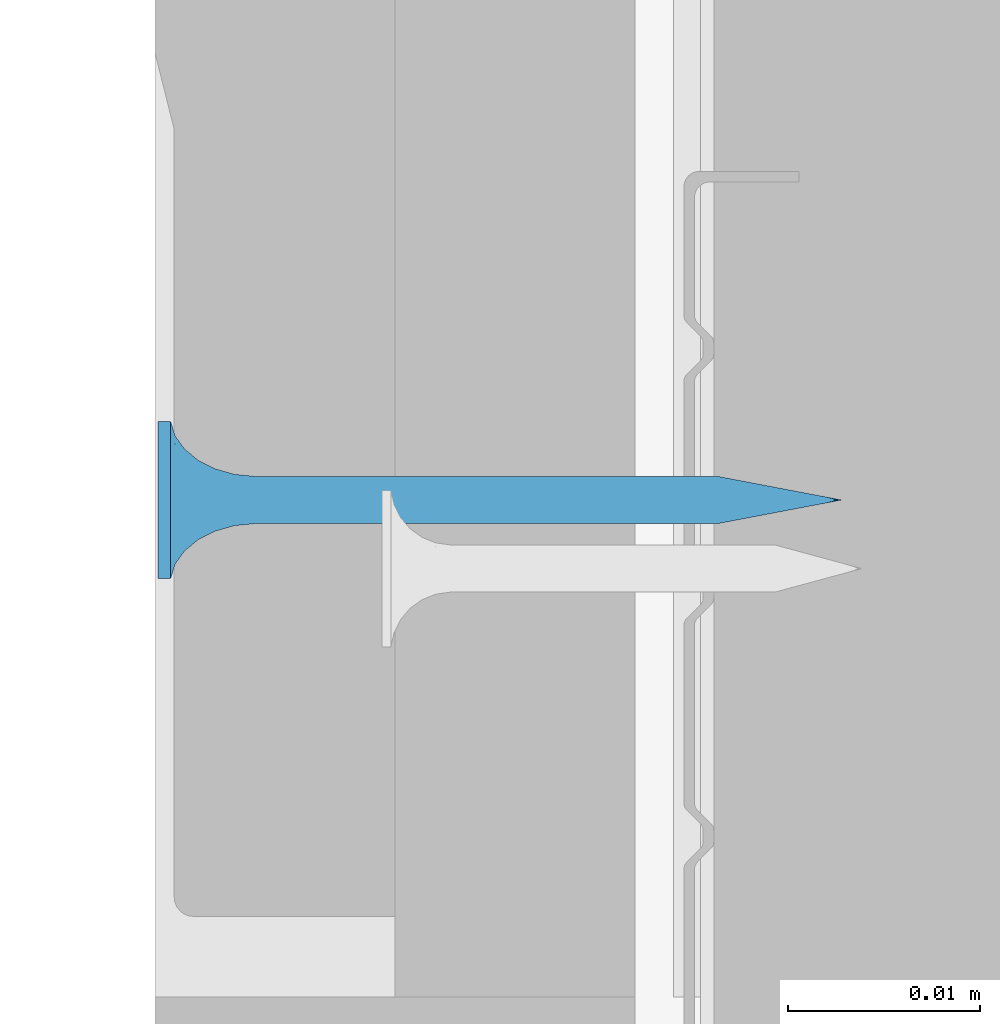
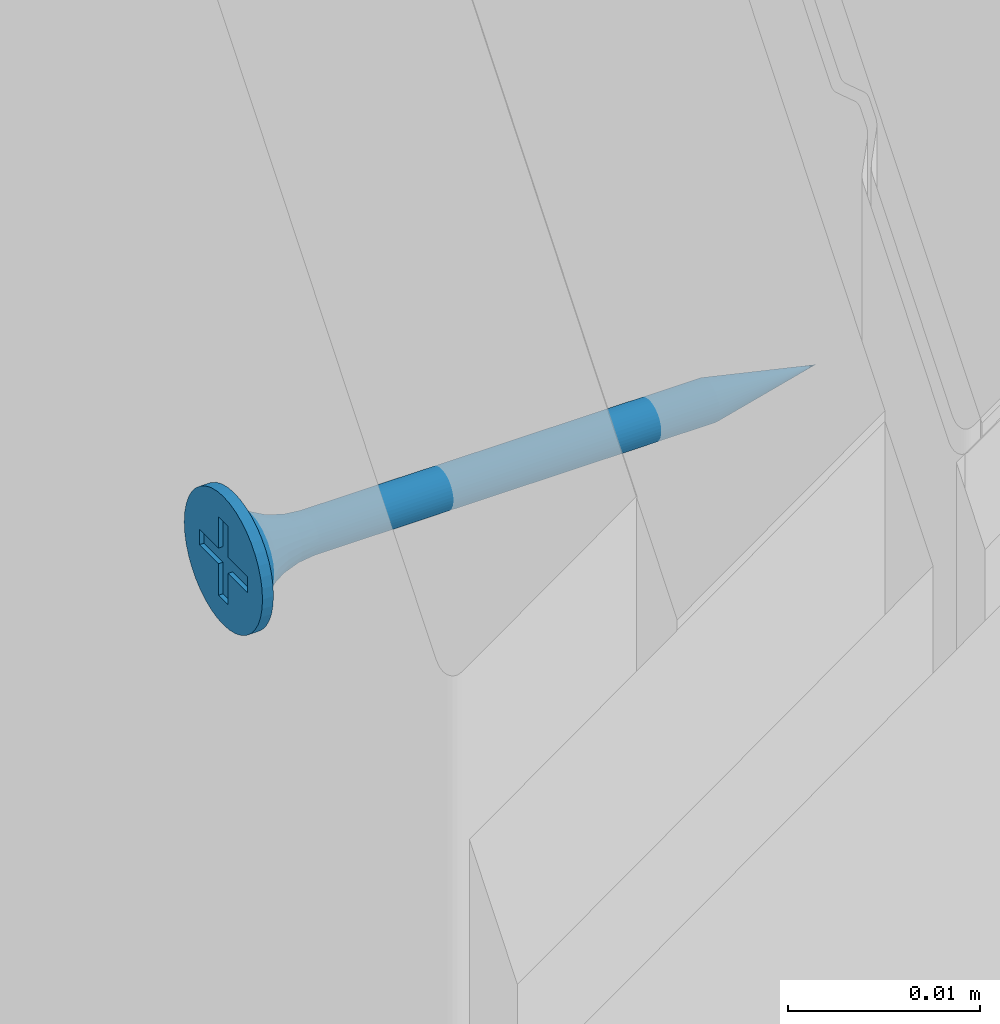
# One storey, part 47 of 92: 1 wall.
"""IFC2X3 building model written with IfcOpenShell, lengths in millimetres."""

from ifc_helpers import new_model, si_unit, frame, origin_with_axes, place, context, subcontext, project, spatial, faceted_brep, material, type_object, element, save


model = new_model("IFC2X3")

# Units and contexts
model_context = context("Model", 3, world=origin_with_axes())
body_context = subcontext(model_context, "Body", "Model", "MODEL_VIEW")
ifc_project = project(units=[si_unit("LENGTHUNIT", "METRE", prefix="MILLI"), si_unit("AREAUNIT", "SQUARE_METRE"), si_unit("VOLUMEUNIT", "CUBIC_METRE")], contexts=[model_context])

# Site, building, storey
site_placement = place(None, origin_with_axes())
site = spatial("IfcSite", under=ifc_project, at=site_placement, Name="Default Site", CompositionType="ELEMENT")
building_placement = place(site_placement, origin_with_axes())
building = spatial("IfcBuilding", under=site, at=building_placement, Name="Default Building", CompositionType="ELEMENT")
storey_placement = place(building_placement, origin_with_axes())
storey = spatial("IfcBuildingStorey", under=building, at=storey_placement, Name="Default Building Storey", CompositionType="ELEMENT", Elevation=0.0)

# Wall
ifc_material = material(Name="Undefined2")
wall_type = type_object("IfcWallType", Name="Wkręt RIGIPS TN 35#37", PredefinedType="NOTDEFINED")
wall_placement = place(storey_placement, frame((4833.413128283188, 6.443031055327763, 136.19379806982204), z_axis=(0.0, 0.0, 1.0), x_axis=(6.938893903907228e-17, -1.0, 0.0)))
element("IfcWall", 1, at=wall_placement, inside=storey, type_object=wall_type, material=ifc_material, Name="Wkręt RIGIPS TN 35", context=body_context, shape_type="Brep", body=[
    faceted_brep([(-141.48753293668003, -4832.598052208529, 555.1619773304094), (-141.48753293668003, -4833.259714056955, 555.1619773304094), (-141.5377465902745, -4833.259714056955, 555.8000000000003), (-141.5377465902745, -4832.598052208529, 555.8000000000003), (-141.33812900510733, -4832.598052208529, 554.539664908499), (-141.33812900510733, -4833.259714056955, 554.539664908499), (-141.09321328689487, -4832.598052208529, 553.948386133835), (-141.09321328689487, -4833.259714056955, 553.948386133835), (-140.75881656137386, -4832.598052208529, 553.4027002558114), (-140.75881656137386, -4833.259714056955, 553.4027002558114), (-140.34317265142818, -4833.259714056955, 552.9160436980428), (-140.45417279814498, -4832.598052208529, 553.031490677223), (-139.8565160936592, -4833.259714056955, 552.5003997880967), (-140.1080097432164, -4832.598052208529, 552.6986613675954), (-139.72512626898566, -4832.598052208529, 552.4088260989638), (-139.31083021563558, -4833.259714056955, 552.1660030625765), (-139.31083021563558, -4832.598052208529, 552.1660030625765), (-138.71955144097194, -4833.259714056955, 551.9210873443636), (-138.87086516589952, -4832.598052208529, 551.9735585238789), (-138.41133029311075, -4832.598052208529, 551.8341602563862), (-138.0972390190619, -4833.259714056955, 551.7716834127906), (-137.9385961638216, -4832.598052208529, 551.74974052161), (-137.45921634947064, -4833.259714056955, 551.7214697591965), (-137.45921634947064, -4832.598052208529, 551.7214697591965), (-136.82119367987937, -4832.598052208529, 551.7716834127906), (-136.82119367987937, -4833.259714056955, 551.7716834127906), (-136.19888125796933, -4832.598052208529, 551.9210873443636), (-136.19888125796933, -4833.259714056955, 551.9210873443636), (-135.6076024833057, -4832.598052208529, 552.1660030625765), (-135.6076024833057, -4833.259714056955, 552.1660030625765), (-135.06191660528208, -4832.598052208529, 552.5003997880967), (-135.06191660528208, -4833.259714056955, 552.5003997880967), (-134.57526004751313, -4832.598052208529, 552.9160436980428), (-134.57526004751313, -4833.259714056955, 552.9160436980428), (-134.1596161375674, -4832.598052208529, 553.4027002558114), (-134.1596161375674, -4833.259714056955, 553.4027002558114), (-133.8252194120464, -4832.598052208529, 553.948386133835), (-133.8252194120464, -4833.259714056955, 553.948386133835), (-133.58030369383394, -4832.598052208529, 554.539664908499), (-133.58030369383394, -4833.259714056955, 554.539664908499), (-133.3806861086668, -4833.259714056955, 555.8000000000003), (-133.3806861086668, -4832.598052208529, 555.8000000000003), (-133.43089976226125, -4832.598052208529, 556.4380226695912), (-133.43089976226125, -4833.259714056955, 556.4380226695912), (-133.43089976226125, -4833.259714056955, 555.1619773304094), (-133.43089976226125, -4832.598052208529, 555.1619773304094), (-133.58030369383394, -4832.598052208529, 557.0603350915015), (-133.58030369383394, -4833.259714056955, 557.0603350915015), (-133.8252194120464, -4832.598052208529, 557.6516138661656), (-133.8252194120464, -4833.259714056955, 557.6516138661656), (-134.1596161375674, -4832.598052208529, 558.1972997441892), (-134.1596161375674, -4833.259714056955, 558.1972997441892), (-134.57526004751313, -4832.598052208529, 558.6839563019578), (-134.57526004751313, -4833.259714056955, 558.6839563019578), (-135.06191660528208, -4832.598052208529, 559.0996002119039), (-135.06191660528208, -4833.259714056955, 559.0996002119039), (-135.6076024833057, -4832.598052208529, 559.4339969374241), (-135.6076024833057, -4833.259714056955, 559.4339969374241), (-136.19888125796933, -4832.598052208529, 559.678912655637), (-136.19888125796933, -4833.259714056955, 559.678912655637), (-136.82119367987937, -4832.598052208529, 559.82831658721), (-136.82119367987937, -4833.259714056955, 559.82831658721), (-137.45921634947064, -4832.598052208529, 559.8785302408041), (-137.45921634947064, -4833.259714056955, 559.8785302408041), (-138.0972390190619, -4832.598052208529, 559.82831658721), (-138.0972390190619, -4833.259714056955, 559.82831658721), (-138.71955144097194, -4832.598052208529, 559.678912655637), (-138.71955144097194, -4833.259714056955, 559.678912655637), (-139.31083021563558, -4832.598052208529, 559.4339969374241), (-139.31083021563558, -4833.259714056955, 559.4339969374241), (-139.8565160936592, -4832.598052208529, 559.0996002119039), (-139.8565160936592, -4833.259714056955, 559.0996002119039), (-140.34317265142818, -4832.598052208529, 558.6839563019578), (-140.34317265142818, -4833.259714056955, 558.6839563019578), (-140.75881656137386, -4832.598052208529, 558.1972997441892), (-140.75881656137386, -4833.259714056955, 558.1972997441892), (-141.09321328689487, -4832.598052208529, 557.6516138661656), (-141.09321328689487, -4833.259714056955, 557.6516138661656), (-141.33812900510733, -4832.598052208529, 557.0603350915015), (-141.33812900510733, -4833.259714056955, 557.0603350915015), (-141.48753293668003, -4832.598052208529, 556.4380226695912), (-141.48753293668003, -4833.259714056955, 556.4380226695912), (-137.65172779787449, -4828.206294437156, 554.5845305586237), (-137.45921634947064, -4828.206294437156, 554.5693795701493), (-137.8060615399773, -4829.281368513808, 554.505556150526), (-137.45921634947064, -4829.281368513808, 554.4598930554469), (-137.83949898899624, -4828.206294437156, 554.6296104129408), (-138.12926982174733, -4829.281368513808, 554.6394333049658), (-138.01790634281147, -4828.206294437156, 554.7035091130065), (-138.1825568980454, -4828.206294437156, 554.8044072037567), (-138.40681506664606, -4829.281368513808, 554.8524012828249), (-138.3293964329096, -4828.206294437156, 554.9298199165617), (-138.45480914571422, -4828.206294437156, 555.0766594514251), (-138.6197830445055, -4829.281368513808, 555.1299465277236), (-138.5557072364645, -4828.206294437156, 555.2413100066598), (-138.753660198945, -4829.281368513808, 555.453154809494), (-138.62960593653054, -4828.206294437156, 555.4197173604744), (-138.67468579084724, -4828.206294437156, 555.6074885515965), (-138.79932329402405, -4829.281368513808, 555.7999999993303), (-138.68983677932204, -4828.206294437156, 555.8000000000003), (-138.67468579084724, -4828.206294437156, 555.9925114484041), (-138.753660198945, -4829.281368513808, 556.1468451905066), (-138.62960593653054, -4828.206294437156, 556.1802826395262), (-138.6197830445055, -4829.281368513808, 556.470053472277), (-138.5557072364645, -4828.206294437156, 556.3586899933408), (-138.45480914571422, -4828.206294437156, 556.5233405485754), (-138.40681506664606, -4829.281368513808, 556.7475987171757), (-138.3293964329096, -4828.206294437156, 556.6701800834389), (-138.1825568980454, -4828.206294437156, 556.7955927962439), (-138.12926982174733, -4829.281368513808, 556.9605666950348), (-138.01790634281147, -4828.206294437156, 556.8964908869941), (-137.8060615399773, -4829.281368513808, 557.0944438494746), (-137.83949898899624, -4828.206294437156, 556.9703895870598), (-137.65172779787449, -4828.206294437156, 557.0154694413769), (-137.45921634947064, -4829.281368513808, 557.1401069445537), (-137.45921634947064, -4828.206294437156, 557.0306204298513), (-137.26670490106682, -4828.206294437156, 557.0154694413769), (-137.11237115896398, -4829.281368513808, 557.0944438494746), (-137.07893370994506, -4828.206294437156, 556.9703895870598), (-136.78916287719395, -4829.281368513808, 556.9605666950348), (-136.9005263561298, -4828.206294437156, 556.8964908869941), (-136.7358758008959, -4828.206294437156, 556.7955927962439), (-136.5116176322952, -4829.281368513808, 556.7475987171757), (-136.58903626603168, -4828.206294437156, 556.6701800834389), (-136.46362355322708, -4828.206294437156, 556.5233405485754), (-136.2986496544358, -4829.281368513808, 556.470053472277), (-136.36272546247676, -4828.206294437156, 556.3586899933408), (-136.16477249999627, -4829.281368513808, 556.1468451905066), (-136.28882676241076, -4828.206294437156, 556.1802826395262), (-136.24374690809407, -4828.206294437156, 555.9925114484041), (-136.11910940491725, -4829.281368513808, 555.7999999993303), (-136.22859591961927, -4828.206294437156, 555.8000000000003), (-136.24374690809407, -4828.206294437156, 555.6074885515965), (-136.16477249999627, -4829.281368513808, 555.453154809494), (-136.28882676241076, -4828.206294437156, 555.4197173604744), (-136.2986496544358, -4829.281368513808, 555.1299465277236), (-136.36272546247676, -4828.206294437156, 555.2413100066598), (-136.46362355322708, -4828.206294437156, 555.0766594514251), (-136.5116176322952, -4829.281368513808, 554.8524012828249), (-136.58903626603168, -4828.206294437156, 554.9298199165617), (-136.7358758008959, -4828.206294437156, 554.8044072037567), (-136.78916287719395, -4829.281368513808, 554.6394333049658), (-136.9005263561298, -4828.206294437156, 554.7035091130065), (-137.11237115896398, -4829.281368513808, 554.505556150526), (-137.07893370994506, -4828.206294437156, 554.6296104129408), (-137.26670490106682, -4828.206294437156, 554.5845305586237), (-137.45921634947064, -4830.288222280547, 554.1737111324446), (-137.88013087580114, -4830.288222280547, 554.2291255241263), (-138.2723607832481, -4830.288222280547, 554.3915925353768), (-138.60917621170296, -4830.288222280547, 554.650040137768), (-138.8676238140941, -4830.288222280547, 554.9868555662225), (-139.03009082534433, -4830.288222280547, 555.3790854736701), (-139.08550521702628, -4830.288222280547, 555.7999999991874), (-139.03009082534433, -4830.288222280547, 556.2209145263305), (-138.8676238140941, -4830.288222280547, 556.6131444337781), (-138.60917621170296, -4830.288222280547, 556.9499598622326), (-138.2723607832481, -4830.288222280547, 557.2084074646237), (-137.88013087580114, -4830.288222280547, 557.3708744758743), (-137.45921634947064, -4830.288222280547, 557.426288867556), (-137.03830182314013, -4830.288222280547, 557.3708744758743), (-136.64607191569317, -4830.288222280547, 557.2084074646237), (-136.30925648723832, -4830.288222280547, 556.9499598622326), (-136.05080888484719, -4830.288222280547, 556.6131444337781), (-135.88834187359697, -4830.288222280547, 556.2209145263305), (-135.832927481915, -4830.288222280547, 555.7999999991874), (-135.88834187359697, -4830.288222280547, 555.3790854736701), (-136.05080888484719, -4830.288222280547, 554.9868555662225), (-136.30925648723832, -4830.288222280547, 554.650040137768), (-136.64607191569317, -4830.288222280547, 554.3915925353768), (-137.03830182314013, -4830.288222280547, 554.2291255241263), (-137.45921634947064, -4831.168773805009, 553.7273430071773), (-137.99565943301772, -4831.168773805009, 553.7979670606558), (-138.49554484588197, -4831.168773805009, 554.0050264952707), (-138.92480608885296, -4831.168773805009, 554.3344102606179), (-139.25418985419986, -4831.168773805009, 554.763671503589), (-139.46124928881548, -4831.168773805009, 555.2635569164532), (-139.53187334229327, -4831.168773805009, 555.799999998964), (-139.46124928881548, -4831.168773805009, 556.3364430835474), (-139.25418985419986, -4831.168773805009, 556.8363284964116), (-138.92480608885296, -4831.168773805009, 557.2655897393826), (-138.49554484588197, -4831.168773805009, 557.5949735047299), (-137.99565943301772, -4831.168773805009, 557.8020329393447), (-137.45921634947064, -4831.168773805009, 557.8726569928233), (-136.92277326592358, -4831.168773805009, 557.8020329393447), (-136.42288785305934, -4831.168773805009, 557.5949735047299), (-135.9936266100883, -4831.168773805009, 557.2655897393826), (-135.6642428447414, -4831.168773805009, 556.8363284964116), (-135.45718341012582, -4831.168773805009, 556.3364430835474), (-135.386559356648, -4831.168773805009, 555.799999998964), (-135.45718341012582, -4831.168773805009, 555.2635569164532), (-135.6642428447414, -4831.168773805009, 554.763671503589), (-135.9936266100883, -4831.168773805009, 554.3344102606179), (-136.42288785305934, -4831.168773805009, 554.0050264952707), (-136.92277326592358, -4831.168773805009, 553.7979670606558), (-137.45921634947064, -4831.872222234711, 553.1465392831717), (-138.14598252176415, -4831.872222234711, 553.2369539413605), (-138.78594670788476, -4831.872222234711, 553.5020355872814), (-139.33549641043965, -4831.872222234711, 553.9237199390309), (-139.75718076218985, -4831.872222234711, 554.4732696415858), (-140.02226240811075, -4831.872222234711, 555.1132338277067), (-140.11267706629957, -4831.872222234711, 555.7999999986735), (-140.02226240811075, -4831.872222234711, 556.4867661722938), (-139.75718076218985, -4831.872222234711, 557.1267303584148), (-139.33549641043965, -4831.872222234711, 557.6762800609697), (-138.78594670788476, -4831.872222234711, 558.0979644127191), (-138.14598252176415, -4831.872222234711, 558.3630460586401), (-137.45921634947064, -4831.872222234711, 558.4534607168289), (-136.77245017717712, -4831.872222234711, 558.3630460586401), (-136.13248599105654, -4831.872222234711, 558.0979644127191), (-135.58293628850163, -4831.872222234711, 557.6762800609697), (-135.16125193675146, -4831.872222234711, 557.1267303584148), (-134.89617029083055, -4831.872222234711, 556.4867661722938), (-134.8057556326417, -4831.872222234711, 555.7999999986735), (-134.89617029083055, -4831.872222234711, 555.1132338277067), (-135.16125193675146, -4831.872222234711, 554.4732696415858), (-135.58293628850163, -4831.872222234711, 553.9237199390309), (-136.13248599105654, -4831.872222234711, 553.5020355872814), (-136.77245017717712, -4831.872222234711, 553.2369539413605), (-137.45921634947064, -4832.357990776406, 552.4648055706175), (-138.3224281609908, -4832.357990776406, 552.5784495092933), (-139.12681356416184, -4832.357990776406, 552.9116369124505), (-139.8175549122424, -4832.357990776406, 553.4416614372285), (-140.34757943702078, -4832.357990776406, 554.1324027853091), (-140.680766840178, -4832.357990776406, 554.9367881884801), (-140.79441077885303, -4832.357990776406, 555.7999999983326), (-140.680766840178, -4832.357990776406, 556.6632118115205), (-140.34757943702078, -4832.357990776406, 557.4675972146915), (-139.8175549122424, -4832.357990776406, 558.1583385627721), (-139.12681356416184, -4832.357990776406, 558.6883630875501), (-138.3224281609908, -4832.357990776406, 559.0215504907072), (-137.45921634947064, -4832.357990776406, 559.1351944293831), (-136.5960045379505, -4832.357990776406, 559.0215504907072), (-135.79161913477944, -4832.357990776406, 558.6883630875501), (-135.10087778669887, -4832.357990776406, 558.1583385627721), (-134.5708532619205, -4832.357990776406, 557.4675972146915), (-134.23766585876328, -4832.357990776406, 556.6632118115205), (-134.12402192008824, -4832.357990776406, 555.7999999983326), (-134.23766585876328, -4832.357990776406, 554.9367881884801), (-134.5708532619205, -4832.357990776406, 554.1324027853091), (-135.10087778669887, -4832.357990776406, 553.4416614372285), (-135.79161913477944, -4832.357990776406, 552.9116369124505), (-136.5960045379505, -4832.357990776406, 552.5784495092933), (-138.67468579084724, -4804.0937578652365, 555.6074885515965), (-138.68983677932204, -4804.0937578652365, 555.8000000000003), (-138.62960593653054, -4804.0937578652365, 555.4197173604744), (-138.5557072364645, -4804.0937578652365, 555.2413100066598), (-138.45480914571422, -4804.0937578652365, 555.0766594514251), (-138.3293964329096, -4804.0937578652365, 554.9298199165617), (-138.1825568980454, -4804.0937578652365, 554.8044072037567), (-138.01790634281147, -4804.0937578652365, 554.7035091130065), (-137.83949898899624, -4804.0937578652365, 554.6296104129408), (-137.65172779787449, -4804.0937578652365, 554.5845305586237), (-137.45921634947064, -4804.0937578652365, 554.5693795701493), (-137.26670490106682, -4804.0937578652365, 554.5845305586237), (-137.07893370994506, -4804.0937578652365, 554.6296104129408), (-136.9005263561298, -4804.0937578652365, 554.7035091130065), (-136.7358758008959, -4804.0937578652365, 554.8044072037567), (-136.58903626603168, -4804.0937578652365, 554.9298199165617), (-136.46362355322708, -4804.0937578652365, 555.0766594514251), (-136.36272546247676, -4804.0937578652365, 555.2413100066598), (-136.28882676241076, -4804.0937578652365, 555.4197173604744), (-136.22859591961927, -4804.0937578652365, 555.8000000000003), (-136.24374690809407, -4804.0937578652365, 555.9925114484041), (-136.24374690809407, -4804.0937578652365, 555.6074885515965), (-136.28882676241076, -4804.0937578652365, 556.1802826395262), (-136.36272546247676, -4804.0937578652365, 556.3586899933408), (-136.46362355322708, -4804.0937578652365, 556.5233405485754), (-136.58903626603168, -4804.0937578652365, 556.6701800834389), (-136.7358758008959, -4804.0937578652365, 556.7955927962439), (-136.9005263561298, -4804.0937578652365, 556.8964908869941), (-137.07893370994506, -4804.0937578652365, 556.9703895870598), (-137.26670490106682, -4804.0937578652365, 557.0154694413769), (-137.45921634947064, -4804.0937578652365, 557.0306204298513), (-137.65172779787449, -4804.0937578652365, 557.0154694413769), (-137.83949898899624, -4804.0937578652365, 556.9703895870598), (-138.01790634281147, -4804.0937578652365, 556.8964908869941), (-138.1825568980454, -4804.0937578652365, 556.7955927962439), (-138.3293964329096, -4804.0937578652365, 556.6701800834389), (-138.45480914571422, -4804.0937578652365, 556.5233405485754), (-138.5557072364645, -4804.0937578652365, 556.3586899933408), (-138.62960593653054, -4804.0937578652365, 556.1802826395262), (-138.67468579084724, -4804.0937578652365, 555.9925114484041), (-137.45921634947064, -4797.627062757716, 555.8000000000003), (-139.95921629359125, -4833.259714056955, 555.2999999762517), (-139.95921629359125, -4833.259714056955, 556.3000000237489), (-137.95921637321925, -4833.259714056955, 556.3000000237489), (-137.95921637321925, -4833.259714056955, 558.2999999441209), (-136.95921632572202, -4833.259714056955, 558.2999999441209), (-136.95921632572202, -4833.259714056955, 556.3000000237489), (-134.95921640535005, -4833.259714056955, 556.3000000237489), (-134.95921640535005, -4833.259714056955, 555.2999999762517), (-136.95921632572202, -4833.259714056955, 555.2999999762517), (-136.95921632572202, -4833.259714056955, 553.3000000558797), (-137.95921637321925, -4833.259714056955, 553.3000000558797), (-137.95921637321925, -4833.259714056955, 555.2999999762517), (-136.95921632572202, -4832.988378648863, 558.2999999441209), (-137.95921637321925, -4832.988378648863, 558.2999999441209), (-137.95921637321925, -4832.988378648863, 556.3000000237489), (-139.95921629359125, -4832.988378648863, 556.3000000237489), (-139.95921629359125, -4832.988378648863, 555.2999999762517), (-137.95921637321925, -4832.988378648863, 555.2999999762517), (-137.95921637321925, -4832.988378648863, 553.3000000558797), (-136.95921632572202, -4832.988378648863, 553.3000000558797), (-136.95921632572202, -4832.988378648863, 555.2999999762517), (-134.95921640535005, -4832.988378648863, 555.2999999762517), (-134.95921640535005, -4832.988378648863, 556.3000000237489), (-136.95921632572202, -4832.988378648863, 556.3000000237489)], [[[0, 1, 2, 3]], [[1, 0, 4, 5]], [[5, 4, 6, 7]], [[8, 9, 7, 6]], [[8, 10, 9]], [[8, 11, 10]], [[12, 11, 13]], [[12, 10, 11]], [[13, 14, 12]], [[14, 15, 12]], [[14, 16, 15]], [[17, 16, 18]], [[17, 15, 16]], [[18, 19, 17]], [[20, 19, 21]], [[20, 17, 19]], [[21, 22, 20]], [[21, 23, 22]], [[24, 25, 22, 23]], [[25, 24, 26, 27]], [[27, 26, 28, 29]], [[30, 31, 29, 28]], [[31, 30, 32, 33]], [[34, 35, 33, 32]], [[35, 34, 36, 37]], [[37, 36, 38, 39]], [[40, 41, 42, 43]], [[44, 45, 41, 40]], [[45, 44, 39, 38]], [[43, 42, 46, 47]], [[47, 46, 48, 49]], [[50, 51, 49, 48]], [[51, 50, 52, 53]], [[54, 55, 53, 52]], [[55, 54, 56, 57]], [[57, 56, 58, 59]], [[60, 61, 59, 58]], [[61, 60, 62, 63]], [[64, 65, 63, 62]], [[65, 64, 66, 67]], [[67, 66, 68, 69]], [[70, 71, 69, 68]], [[71, 70, 72, 73]], [[74, 75, 73, 72]], [[75, 74, 76, 77]], [[77, 76, 78, 79]], [[80, 81, 79, 78]], [[81, 80, 3, 2]], [[82, 83, 84]], [[83, 85, 84]], [[84, 86, 82]], [[84, 87, 88, 86]], [[89, 88, 87]], [[87, 90, 89]], [[90, 91, 89]], [[92, 91, 93]], [[91, 90, 93]], [[93, 94, 92]], [[93, 95, 96, 94]], [[97, 96, 95]], [[95, 98, 97]], [[98, 99, 97]], [[100, 99, 101]], [[99, 98, 101]], [[101, 102, 100]], [[101, 103, 104, 102]], [[105, 104, 103]], [[103, 106, 105]], [[106, 107, 105]], [[108, 107, 109]], [[107, 106, 109]], [[109, 110, 108]], [[109, 111, 112, 110]], [[113, 112, 111]], [[111, 114, 113]], [[114, 115, 113]], [[116, 115, 117]], [[115, 114, 117]], [[117, 118, 116]], [[117, 119, 120, 118]], [[121, 120, 119]], [[119, 122, 121]], [[122, 123, 121]], [[124, 123, 125]], [[123, 122, 125]], [[125, 126, 124]], [[125, 127, 128, 126]], [[129, 128, 127]], [[127, 130, 129]], [[130, 131, 129]], [[132, 131, 133]], [[131, 130, 133]], [[133, 134, 132]], [[133, 135, 136, 134]], [[137, 136, 135]], [[135, 138, 137]], [[138, 139, 137]], [[140, 139, 141]], [[139, 138, 141]], [[141, 142, 140]], [[141, 143, 144, 142]], [[145, 144, 143]], [[143, 85, 145]], [[85, 83, 145]], [[146, 147, 84, 85]], [[84, 147, 148, 87]], [[87, 148, 149, 90]], [[90, 149, 150, 93]], [[93, 150, 151, 95]], [[95, 151, 152, 98]], [[98, 152, 153, 101]], [[101, 153, 154, 103]], [[103, 154, 155, 106]], [[106, 155, 156, 109]], [[109, 156, 157, 111]], [[111, 157, 158, 114]], [[114, 158, 159, 117]], [[117, 159, 160, 119]], [[119, 160, 161, 122]], [[122, 161, 162, 125]], [[125, 162, 163, 127]], [[127, 163, 164, 130]], [[130, 164, 165, 133]], [[133, 165, 166, 135]], [[135, 166, 167, 138]], [[138, 167, 168, 141]], [[141, 168, 169, 143]], [[143, 169, 146, 85]], [[170, 171, 147, 146]], [[147, 171, 172, 148]], [[148, 172, 173, 149]], [[149, 173, 174, 150]], [[150, 174, 175, 151]], [[151, 175, 176, 152]], [[152, 176, 177, 153]], [[153, 177, 178, 154]], [[154, 178, 179, 155]], [[155, 179, 180, 156]], [[156, 180, 181, 157]], [[157, 181, 182, 158]], [[158, 182, 183, 159]], [[159, 183, 184, 160]], [[160, 184, 185, 161]], [[161, 185, 186, 162]], [[162, 186, 187, 163]], [[163, 187, 188, 164]], [[164, 188, 189, 165]], [[165, 189, 190, 166]], [[166, 190, 191, 167]], [[167, 191, 192, 168]], [[168, 192, 193, 169]], [[169, 193, 170, 146]], [[194, 195, 171, 170]], [[171, 195, 196, 172]], [[172, 196, 197, 173]], [[173, 197, 198, 174]], [[174, 198, 199, 175]], [[175, 199, 200, 176]], [[176, 200, 201, 177]], [[177, 201, 202, 178]], [[178, 202, 203, 179]], [[179, 203, 204, 180]], [[180, 204, 205, 181]], [[181, 205, 206, 182]], [[182, 206, 207, 183]], [[183, 207, 208, 184]], [[184, 208, 209, 185]], [[185, 209, 210, 186]], [[186, 210, 211, 187]], [[187, 211, 212, 188]], [[188, 212, 213, 189]], [[189, 213, 214, 190]], [[190, 214, 215, 191]], [[191, 215, 216, 192]], [[192, 216, 217, 193]], [[193, 217, 194, 170]], [[21, 19, 218]], [[19, 219, 218]], [[218, 23, 21]], [[218, 219, 195, 194]], [[18, 16, 219]], [[16, 220, 219]], [[219, 19, 18]], [[195, 219, 220, 196]], [[13, 11, 221]], [[14, 13, 220]], [[13, 221, 220]], [[220, 16, 14]], [[196, 220, 221, 197]], [[8, 6, 222]], [[222, 221, 8]], [[221, 11, 8]], [[197, 221, 222, 198]], [[4, 223, 222, 6]], [[198, 222, 223, 199]], [[0, 3, 223]], [[3, 224, 223]], [[223, 4, 0]], [[199, 223, 224, 200]], [[80, 78, 225]], [[225, 224, 80]], [[224, 3, 80]], [[200, 224, 225, 201]], [[78, 76, 226, 225]], [[201, 225, 226, 202]], [[74, 72, 226]], [[72, 227, 226]], [[226, 76, 74]], [[202, 226, 227, 203]], [[70, 68, 228]], [[228, 227, 70]], [[227, 72, 70]], [[203, 227, 228, 204]], [[68, 66, 229, 228]], [[204, 228, 229, 205]], [[64, 62, 229]], [[62, 230, 229]], [[229, 66, 64]], [[205, 229, 230, 206]], [[60, 58, 231]], [[231, 230, 60]], [[230, 62, 60]], [[206, 230, 231, 207]], [[58, 56, 232, 231]], [[207, 231, 232, 208]], [[54, 52, 232]], [[52, 233, 232]], [[232, 56, 54]], [[208, 232, 233, 209]], [[50, 48, 234]], [[234, 233, 50]], [[233, 52, 50]], [[209, 233, 234, 210]], [[48, 46, 235, 234]], [[210, 234, 235, 211]], [[42, 41, 235]], [[41, 236, 235]], [[235, 46, 42]], [[211, 235, 236, 212]], [[45, 38, 237]], [[237, 236, 45]], [[236, 41, 45]], [[212, 236, 237, 213]], [[36, 238, 237, 38]], [[213, 237, 238, 214]], [[34, 32, 238]], [[32, 239, 238]], [[238, 36, 34]], [[214, 238, 239, 215]], [[30, 28, 240]], [[240, 239, 30]], [[239, 32, 30]], [[215, 239, 240, 216]], [[26, 241, 240, 28]], [[216, 240, 241, 217]], [[217, 241, 218, 194]], [[24, 23, 241]], [[23, 218, 241]], [[241, 26, 24]], [[242, 97, 99, 243]], [[97, 242, 244, 96]], [[96, 244, 245, 94]], [[246, 92, 94, 245]], [[92, 246, 247, 91]], [[248, 89, 91, 247]], [[89, 248, 249, 88]], [[88, 249, 250, 86]], [[251, 82, 86, 250]], [[82, 251, 252, 83]], [[253, 145, 83, 252]], [[145, 253, 254, 144]], [[144, 254, 255, 142]], [[256, 140, 142, 255]], [[140, 256, 257, 139]], [[258, 137, 139, 257]], [[137, 258, 259, 136]], [[136, 259, 260, 134]], [[131, 261, 262, 129]], [[132, 263, 261, 131]], [[263, 132, 134, 260]], [[129, 262, 264, 128]], [[128, 264, 265, 126]], [[266, 124, 126, 265]], [[124, 266, 267, 123]], [[268, 121, 123, 267]], [[121, 268, 269, 120]], [[120, 269, 270, 118]], [[271, 116, 118, 270]], [[116, 271, 272, 115]], [[273, 113, 115, 272]], [[113, 273, 274, 112]], [[112, 274, 275, 110]], [[276, 108, 110, 275]], [[108, 276, 277, 107]], [[278, 105, 107, 277]], [[105, 278, 279, 104]], [[104, 279, 280, 102]], [[281, 100, 102, 280]], [[100, 281, 243, 99]], [[282, 244, 242]], [[242, 243, 282]], [[282, 245, 244]], [[282, 247, 246]], [[246, 245, 282]], [[282, 249, 248]], [[248, 247, 282]], [[282, 250, 249]], [[282, 252, 251]], [[251, 250, 282]], [[282, 254, 253]], [[253, 252, 282]], [[282, 255, 254]], [[282, 257, 256]], [[256, 255, 282]], [[282, 259, 258]], [[258, 257, 282]], [[282, 260, 259]], [[282, 261, 263]], [[263, 260, 282]], [[282, 264, 262]], [[262, 261, 282]], [[282, 265, 264]], [[282, 267, 266]], [[266, 265, 282]], [[282, 269, 268]], [[268, 267, 282]], [[282, 270, 269]], [[282, 272, 271]], [[271, 270, 282]], [[282, 274, 273]], [[273, 272, 282]], [[282, 275, 274]], [[282, 277, 276]], [[276, 275, 282]], [[282, 279, 278]], [[278, 277, 282]], [[282, 280, 279]], [[282, 243, 281]], [[281, 280, 282]], [[75, 77, 79, 81, 2, 1, 5, 7, 9, 10, 12, 15, 17, 20, 22, 25, 27, 29, 31, 33, 35, 37, 39, 44, 40, 43, 47, 49, 51, 53, 55, 57, 59, 61, 63, 65, 67, 69, 71, 73], [283, 284, 285, 286, 287, 288, 289, 290, 291, 292, 293, 294]], [[295, 296, 297, 298, 299, 300, 301, 302, 303, 304, 305, 306]], [[303, 291, 290, 304]], [[304, 290, 289, 305]], [[305, 289, 288, 306]], [[306, 288, 287, 295]], [[295, 287, 286, 296]], [[296, 286, 285, 297]], [[297, 285, 284, 298]], [[298, 284, 283, 299]], [[299, 283, 294, 300]], [[300, 294, 293, 301]], [[301, 293, 292, 302]], [[302, 292, 291, 303]]]),
])

save(model, "model.ifc")
